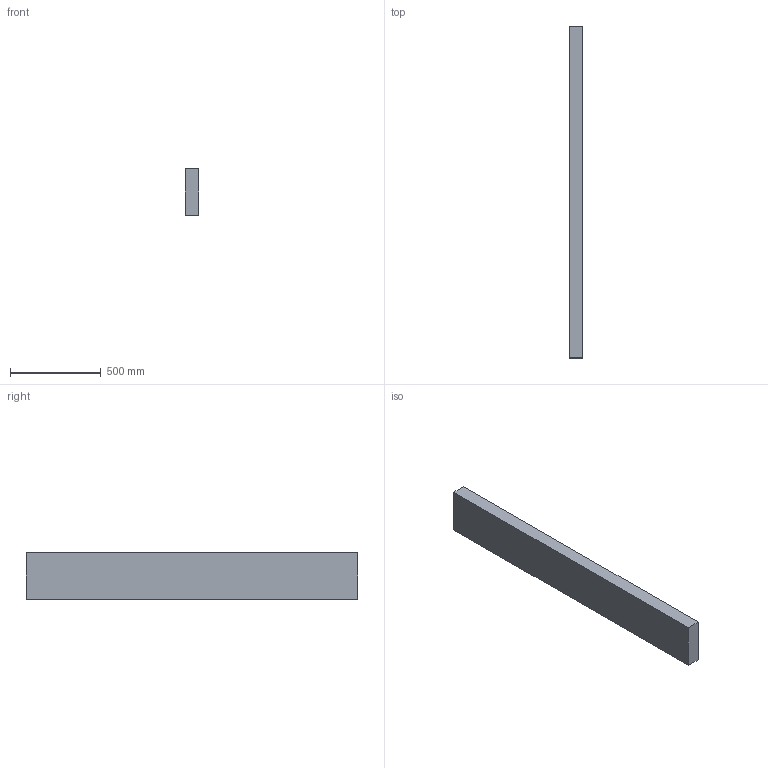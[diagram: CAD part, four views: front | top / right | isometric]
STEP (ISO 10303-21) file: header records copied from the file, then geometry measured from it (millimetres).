
FILE_DESCRIPTION(/* description */ (''),/* implementation_level */ '2;1');
FILE_NAME(/* name */ '3x10x72',/* time_stamp */ '2024-09-20T11:43:48-05:00',/* author */ (''),/* organization */ (''),/* preprocessor_version */ 'ST-DEVELOPER v19.2',/* originating_system */ 'Rhino 8.5',/* authorisation */ '');
FILE_SCHEMA (('CONFIG_CONTROL_DESIGN'));
Length unit declared in the file: inch
Products named in the file (1): Document
Bounding box: 76.2 x 1828.8 x 254 mm (x, y, z)
Volume: 35396058.2 mm3; surface area: 1246449.1 mm2
Topology: 1 solids, 1 shells, 6 faces, 12 edges, 8 vertices
Faces by surface type: plane 6
Entity records: 226 total; most frequent: CARTESIAN_POINT 40, ORIENTED_EDGE 24, EDGE_CURVE 12, B_SPLINE_CURVE_WITH_KNOTS 12, DIRECTION 10, VERTEX_POINT 8, AXIS2_PLACEMENT_3D 8, ORGANIZATION 7
